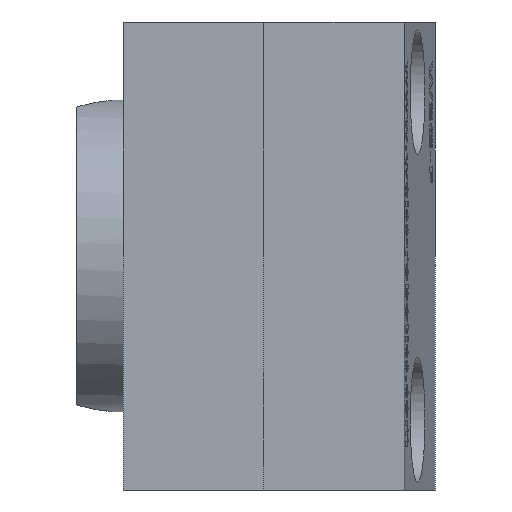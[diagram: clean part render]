
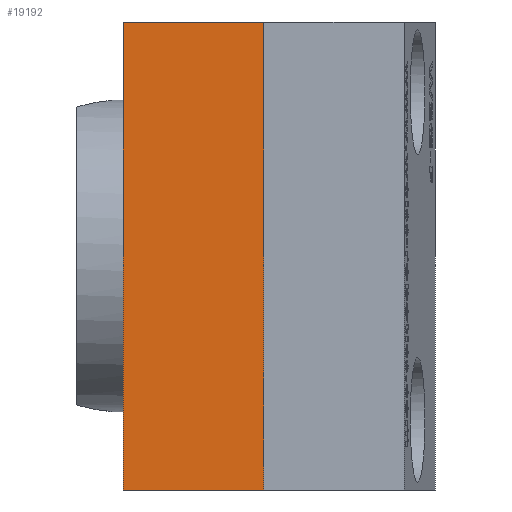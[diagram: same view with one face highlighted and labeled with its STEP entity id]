
A CAD part, front view. The second image highlights one B-rep face of the part: STEP entity #19192.
In plain terms, the highlighted planar face has unit normal (0, -1, 0).
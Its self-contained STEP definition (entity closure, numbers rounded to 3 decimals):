
#18987=CARTESIAN_POINT('',(0.,0.0,15.0));
#18988=VERTEX_POINT('',#18987);
#18995=CARTESIAN_POINT('',(9.0,0.,15.0));
#18996=VERTEX_POINT('',#18995);
#18997=CARTESIAN_POINT('',(9.0,0.,15.0));
#18998=DIRECTION('',(-1.0,0.0,0.0));
#18999=VECTOR('',#18998,9.);
#19000=LINE('',#18997,#18999);
#19001=EDGE_CURVE('',#18996,#18988,#19000,.T.);
#19058=CARTESIAN_POINT('',(0.,0.0,-15.0));
#19059=VERTEX_POINT('',#19058);
#19066=CARTESIAN_POINT('',(0.,0.0,-15.0));
#19067=DIRECTION('',(0.0,0.0,1.0));
#19068=VECTOR('',#19067,30.0);
#19069=LINE('',#19066,#19068);
#19070=EDGE_CURVE('',#19059,#18988,#19069,.T.);
#19097=CARTESIAN_POINT('',(9.0,0.,-15.0));
#19098=VERTEX_POINT('',#19097);
#19105=CARTESIAN_POINT('',(0.,0.0,-15.0));
#19106=DIRECTION('',(1.0,0.0,0.0));
#19107=VECTOR('',#19106,9.);
#19108=LINE('',#19105,#19107);
#19109=EDGE_CURVE('',#19059,#19098,#19108,.T.);
#19164=CARTESIAN_POINT('',(9.0,0.,15.0));
#19165=DIRECTION('',(0.0,0.0,-1.0));
#19166=VECTOR('',#19165,30.0);
#19167=LINE('',#19164,#19166);
#19168=EDGE_CURVE('',#18996,#19098,#19167,.T.);
#19181=CARTESIAN_POINT('',(9.0,0.,0.0));
#19182=DIRECTION('',(0.0,-1.0,0.0));
#19183=DIRECTION('',(0.0,0.0,-1.0));
#19184=AXIS2_PLACEMENT_3D('',#19181,#19182,#19183);
#19185=PLANE('',#19184);
#19186=ORIENTED_EDGE('',*,*,#19001,.T.);
#19187=ORIENTED_EDGE('',*,*,#19070,.F.);
#19188=ORIENTED_EDGE('',*,*,#19109,.T.);
#19189=ORIENTED_EDGE('',*,*,#19168,.F.);
#19190=EDGE_LOOP('',(#19186,#19187,#19188,#19189));
#19191=FACE_OUTER_BOUND('',#19190,.T.);
#19192=ADVANCED_FACE('',(#19191),#19185,.T.);
